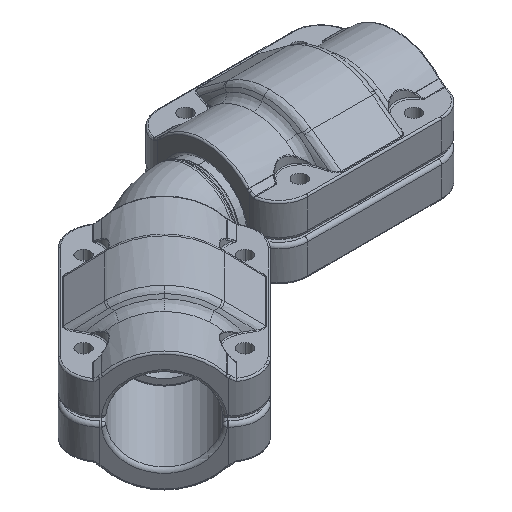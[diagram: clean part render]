
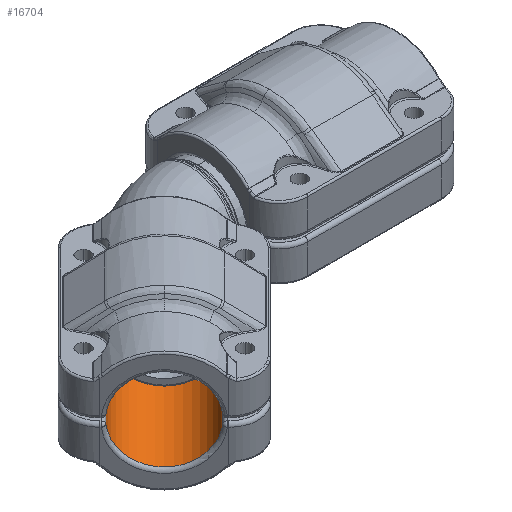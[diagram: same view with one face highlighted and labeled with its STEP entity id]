
A CAD part, isometric view. The second image highlights one B-rep face of the part: STEP entity #16704.
In plain terms, the highlighted cylindrical face has radius 12.75 mm (diameter 25.5 mm), a partial arc.
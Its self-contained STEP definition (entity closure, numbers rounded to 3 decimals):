
#12234=DIRECTION('',(-1.,0.,0.));
#12235=VECTOR('',#12234,57.);
#12236=CARTESIAN_POINT('',(28.5,12.674,-1.391));
#12237=LINE('',#12236,#12235);
#12265=CARTESIAN_POINT('',(-28.5,0.,0.));
#12266=DIRECTION('',(-1.,0.,0.));
#12267=DIRECTION('',(0.,0.994,-0.109));
#12268=AXIS2_PLACEMENT_3D('',#12265,#12266,#12267);
#12273=CARTESIAN_POINT('',(-28.5,0.,0.));
#12274=DIRECTION('',(-1.,0.,0.));
#12275=DIRECTION('',(0.,0.,-1.));
#12276=AXIS2_PLACEMENT_3D('',#12273,#12274,#12275);
#12289=CARTESIAN_POINT('',(28.5,0.,0.));
#12290=DIRECTION('',(1.,0.,0.));
#12291=DIRECTION('',(0.,-0.994,-0.109));
#12292=AXIS2_PLACEMENT_3D('',#12289,#12290,#12291);
#12297=CARTESIAN_POINT('',(28.5,0.,0.));
#12298=DIRECTION('',(1.,0.,0.));
#12299=DIRECTION('',(0.,0.,-1.));
#12300=AXIS2_PLACEMENT_3D('',#12297,#12298,#12299);
#12344=DIRECTION('',(1.,0.,0.));
#12345=VECTOR('',#12344,57.);
#12346=CARTESIAN_POINT('',(-28.5,-12.674,-1.391));
#12347=LINE('',#12346,#12345);
#13975=CARTESIAN_POINT('',(-28.5,-12.674,-1.391));
#13976=VERTEX_POINT('',#13975);
#13977=CARTESIAN_POINT('',(28.5,-12.674,-1.391));
#13978=VERTEX_POINT('',#13977);
#13979=CARTESIAN_POINT('',(28.5,0.,-12.75));
#13980=CARTESIAN_POINT('',(28.5,12.674,-1.391));
#13981=VERTEX_POINT('',#13979);
#13982=VERTEX_POINT('',#13980);
#13983=CARTESIAN_POINT('',(-28.5,0.,-12.75));
#13984=VERTEX_POINT('',#13983);
#13985=CARTESIAN_POINT('',(-28.5,12.674,-1.391));
#13986=VERTEX_POINT('',#13985);
#16688=CARTESIAN_POINT('',(-29.5,0.,0.));
#16689=DIRECTION('',(-1.,0.,0.));
#16690=DIRECTION('',(0.,0.,-1.));
#16691=AXIS2_PLACEMENT_3D('',#16688,#16689,#16690);
#16692=CYLINDRICAL_SURFACE('',#16691,12.75);
#16694=ORIENTED_EDGE('',*,*,#16693,.F.);
#16696=ORIENTED_EDGE('',*,*,#16695,.F.);
#16698=ORIENTED_EDGE('',*,*,#16697,.F.);
#16699=ORIENTED_EDGE('',*,*,#16681,.F.);
#16700=ORIENTED_EDGE('',*,*,#16679,.F.);
#16701=ORIENTED_EDGE('',*,*,#16655,.F.);
#16702=EDGE_LOOP('',(#16694,#16696,#16698,#16699,#16700,#16701));
#16703=FACE_OUTER_BOUND('',#16702,.F.);
#12269=CIRCLE('',#12268,12.75);
#12277=CIRCLE('',#12276,12.75);
#12293=CIRCLE('',#12292,12.75);
#12301=CIRCLE('',#12300,12.75);
#16655=EDGE_CURVE('',#13982,#13986,#12237,.T.);
#16679=EDGE_CURVE('',#13986,#13984,#12269,.T.);
#16681=EDGE_CURVE('',#13984,#13976,#12277,.T.);
#16693=EDGE_CURVE('',#13981,#13982,#12301,.T.);
#16695=EDGE_CURVE('',#13978,#13981,#12293,.T.);
#16697=EDGE_CURVE('',#13976,#13978,#12347,.T.);
#16704=ADVANCED_FACE('',(#16703),#16692,.F.);
